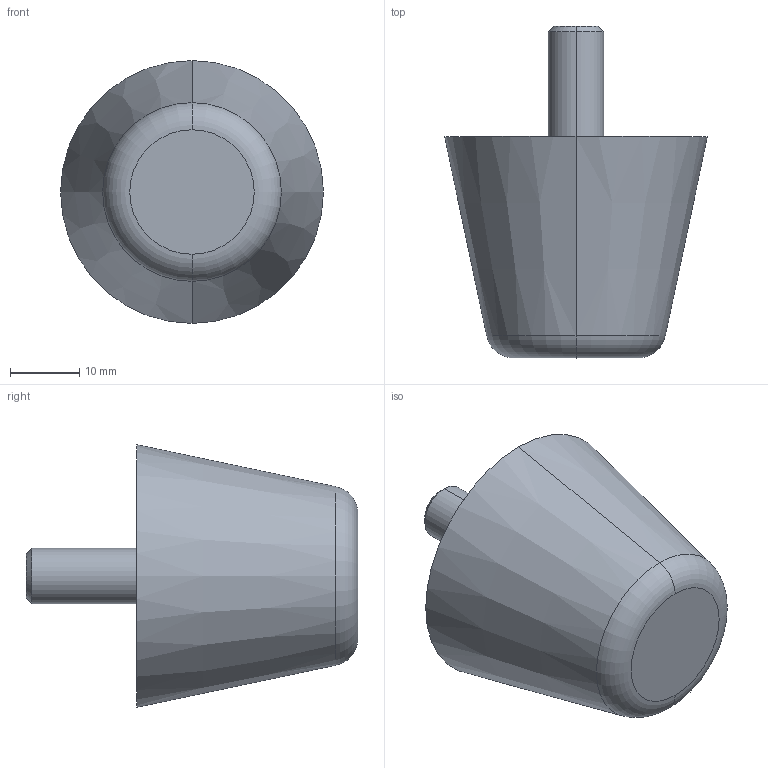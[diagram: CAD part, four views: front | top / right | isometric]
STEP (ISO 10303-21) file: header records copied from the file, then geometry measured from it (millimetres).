
FILE_DESCRIPTION (( 'STEP AP214' ), '1' );
FILE_NAME ('253-38-M8-16-55.step', '2023-03-24T07:38:18', ( '' ), ( '' ), 'SwSTEP 2.0', 'SolidWorks 2022', '' );
FILE_SCHEMA (( 'AUTOMOTIVE_DESIGN' ));
Length unit declared in the file: millimetre
Products named in the file (1): 253-38-M8-16-55
Bounding box: 38 x 47.99 x 38 mm (x, y, z)
Volume: 25561.8 mm3; surface area: 5121.7 mm2
Topology: 1 solids, 1 shells, 14 faces, 26 edges, 16 vertices
Faces by surface type: cone 6, plane 4, cylinder 2, torus 2
Entity records: 500 total; most frequent: DIRECTION 74, CARTESIAN_POINT 57, ORIENTED_EDGE 52, AXIS2_PLACEMENT_3D 33, EDGE_CURVE 26, CIRCLE 18, VERTEX_POINT 16, EDGE_LOOP 16
